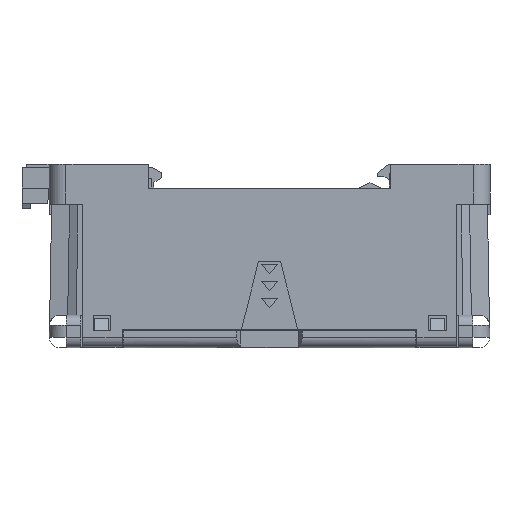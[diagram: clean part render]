
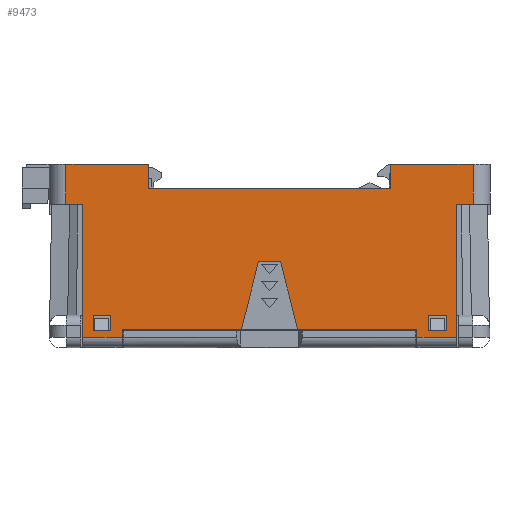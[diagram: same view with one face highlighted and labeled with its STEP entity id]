
A CAD part, left-side view. The second image highlights one B-rep face of the part: STEP entity #9473.
In plain terms, the highlighted planar face has unit normal (-1, 0, 0).
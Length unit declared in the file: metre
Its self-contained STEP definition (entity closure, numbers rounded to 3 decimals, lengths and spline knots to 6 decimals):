
#195=CARTESIAN_POINT('',(-0.019,-0.0276,-0.0197));
#196=VERTEX_POINT('',#195);
#199=CARTESIAN_POINT('',(-0.019,-0.0326,-0.0197));
#200=DIRECTION('',(0.,1.,0.));
#201=VECTOR('',#200,1.);
#202=LINE('',#199,#201);
#203=CARTESIAN_POINT('',(-0.019,-0.0218,-0.0197));
#204=VERTEX_POINT('',#203);
#205=EDGE_CURVE('',#196,#204,#202,.T.);
#1199=CARTESIAN_POINT('',(-0.019,-0.0301,0.));
#1200=VERTEX_POINT('',#1199);
#1203=CARTESIAN_POINT('',(-0.019,-0.0326,0.));
#1204=DIRECTION('',(0.,1.,0.));
#1205=VECTOR('',#1204,1.);
#1206=LINE('',#1203,#1205);
#1207=CARTESIAN_POINT('',(-0.019,-0.0276,0.));
#1208=VERTEX_POINT('',#1207);
#1209=EDGE_CURVE('',#1200,#1208,#1206,.T.);
#3579=CARTESIAN_POINT('',(-0.019,0.0301,0.0024));
#3580=DIRECTION('',(0.,0.,-1.));
#3581=VECTOR('',#3580,1.);
#3582=LINE('',#3579,#3581);
#3583=CARTESIAN_POINT('',(-0.019,0.0301,0.0059));
#3584=VERTEX_POINT('',#3583);
#3585=CARTESIAN_POINT('',(-0.019,0.0301,0.));
#3586=VERTEX_POINT('',#3585);
#3587=EDGE_CURVE('',#3584,#3586,#3582,.T.);
#6246=CARTESIAN_POINT('',(-0.019,-0.0301,0.0059));
#6247=VERTEX_POINT('',#6246);
#6250=CARTESIAN_POINT('',(-0.019,-0.0301,0.0024));
#6251=DIRECTION('',(0.,0.,-1.));
#6252=VECTOR('',#6251,1.);
#6253=LINE('',#6250,#6252);
#6254=EDGE_CURVE('',#6247,#1200,#6253,.T.);
#6566=CARTESIAN_POINT('',(-0.019,-0.0179,0.0059));
#6567=VERTEX_POINT('',#6566);
#6570=CARTESIAN_POINT('',(-0.019,-0.0179,0.0059));
#6571=DIRECTION('',(0.,-1.,0.));
#6572=VECTOR('',#6571,1.);
#6573=LINE('',#6570,#6572);
#6574=EDGE_CURVE('',#6567,#6247,#6573,.T.);
#6834=CARTESIAN_POINT('',(-0.019,-0.0179,0.0024));
#6835=VERTEX_POINT('',#6834);
#6838=CARTESIAN_POINT('',(-0.019,-0.0179,0.0059));
#6839=DIRECTION('',(0.,0.,-1.));
#6840=VECTOR('',#6839,1.);
#6841=LINE('',#6838,#6840);
#6842=EDGE_CURVE('',#6567,#6835,#6841,.T.);
#7439=CARTESIAN_POINT('',(-0.019,0.0179,0.0024));
#7440=VERTEX_POINT('',#7439);
#7443=CARTESIAN_POINT('',(-0.019,-0.0326,0.0024));
#7444=DIRECTION('',(0.,1.,0.));
#7445=VECTOR('',#7444,1.);
#7446=LINE('',#7443,#7445);
#7447=EDGE_CURVE('',#6835,#7440,#7446,.T.);
#7822=CARTESIAN_POINT('',(-0.019,0.0301,0.0059));
#7823=DIRECTION('',(0.,-1.,0.));
#7824=VECTOR('',#7823,1.);
#7825=LINE('',#7822,#7824);
#7826=CARTESIAN_POINT('',(-0.019,0.0179,0.0059));
#7827=VERTEX_POINT('',#7826);
#7828=EDGE_CURVE('',#3584,#7827,#7825,.T.);
#7961=CARTESIAN_POINT('',(-0.019,0.0179,0.0059));
#7962=DIRECTION('',(0.,0.,-1.));
#7963=VECTOR('',#7962,1.);
#7964=LINE('',#7961,#7963);
#7965=EDGE_CURVE('',#7827,#7440,#7964,.T.);
#8298=CARTESIAN_POINT('',(-0.019,0.0276,0.));
#8299=VERTEX_POINT('',#8298);
#8302=EDGE_CURVE('',#8299,#3586,#1206,.T.);
#8500=CARTESIAN_POINT('',(-0.019,0.0276,-0.0197));
#8501=VERTEX_POINT('',#8500);
#8504=CARTESIAN_POINT('',(-0.019,0.0276,-0.0211));
#8505=DIRECTION('',(0.,0.,1.));
#8506=VECTOR('',#8505,1.);
#8507=LINE('',#8504,#8506);
#8508=EDGE_CURVE('',#8501,#8299,#8507,.T.);
#8538=CARTESIAN_POINT('',(-0.019,0.0218,-0.0197));
#8539=VERTEX_POINT('',#8538);
#8542=CARTESIAN_POINT('',(-0.019,-0.0326,-0.0197));
#8543=DIRECTION('',(0.,1.,0.));
#8544=VECTOR('',#8543,1.);
#8545=LINE('',#8542,#8544);
#8546=EDGE_CURVE('',#8539,#8501,#8545,.T.);
#8561=CARTESIAN_POINT('',(-0.019,0.0218,-0.0211));
#8562=DIRECTION('',(0.,0.,1.));
#8563=VECTOR('',#8562,1.);
#8564=LINE('',#8561,#8563);
#8565=CARTESIAN_POINT('',(-0.019,0.0218,-0.0185));
#8566=VERTEX_POINT('',#8565);
#8567=EDGE_CURVE('',#8539,#8566,#8564,.T.);
#8952=CARTESIAN_POINT('',(-0.019,-0.00165,-0.0085));
#8953=DIRECTION('',(0.,-0.243,-0.97));
#8954=VECTOR('',#8953,1.);
#8955=LINE('',#8952,#8954);
#8956=CARTESIAN_POINT('',(-0.019,-0.00165,-0.0085));
#8957=VERTEX_POINT('',#8956);
#8958=CARTESIAN_POINT('',(-0.019,-0.00415,-0.0185));
#8959=VERTEX_POINT('',#8958);
#8960=EDGE_CURVE('',#8957,#8959,#8955,.T.);
#9054=CARTESIAN_POINT('',(-0.019,0.00415,-0.0185));
#9055=VERTEX_POINT('',#9054);
#9058=CARTESIAN_POINT('',(-0.019,0.0218,-0.0185));
#9059=DIRECTION('',(0.,-1.,0.));
#9060=VECTOR('',#9059,1.);
#9061=LINE('',#9058,#9060);
#9062=EDGE_CURVE('',#8566,#9055,#9061,.T.);
#9077=CARTESIAN_POINT('',(-0.019,-0.0218,-0.0185));
#9078=VERTEX_POINT('',#9077);
#9081=EDGE_CURVE('',#8959,#9078,#9061,.T.);
#9100=CARTESIAN_POINT('',(-0.019,0.00415,-0.0185));
#9101=DIRECTION('',(0.,-0.243,0.97));
#9102=VECTOR('',#9101,1.);
#9103=LINE('',#9100,#9102);
#9104=CARTESIAN_POINT('',(-0.019,0.00165,-0.0085));
#9105=VERTEX_POINT('',#9104);
#9106=EDGE_CURVE('',#9055,#9105,#9103,.T.);
#9132=CARTESIAN_POINT('',(-0.019,0.00165,-0.0085));
#9133=DIRECTION('',(0.,-1.,0.));
#9134=VECTOR('',#9133,1.);
#9135=LINE('',#9132,#9134);
#9136=EDGE_CURVE('',#9105,#8957,#9135,.T.);
#9156=CARTESIAN_POINT('',(-0.019,0.0235,-0.0187));
#9157=VERTEX_POINT('',#9156);
#9162=CARTESIAN_POINT('',(-0.019,0.0235,-0.0164));
#9163=DIRECTION('',(0.,0.,-1.));
#9164=VECTOR('',#9163,1.);
#9165=LINE('',#9162,#9164);
#9166=CARTESIAN_POINT('',(-0.019,0.0235,-0.0164));
#9167=VERTEX_POINT('',#9166);
#9168=EDGE_CURVE('',#9167,#9157,#9165,.T.);
#9196=CARTESIAN_POINT('',(-0.019,0.0261,-0.0164));
#9197=DIRECTION('',(0.,-1.,0.));
#9198=VECTOR('',#9197,1.);
#9199=LINE('',#9196,#9198);
#9200=CARTESIAN_POINT('',(-0.019,0.0261,-0.0164));
#9201=VERTEX_POINT('',#9200);
#9202=EDGE_CURVE('',#9201,#9167,#9199,.T.);
#9230=CARTESIAN_POINT('',(-0.019,0.0261,-0.0187));
#9231=DIRECTION('',(0.,0.,1.));
#9232=VECTOR('',#9231,1.);
#9233=LINE('',#9230,#9232);
#9234=CARTESIAN_POINT('',(-0.019,0.0261,-0.0187));
#9235=VERTEX_POINT('',#9234);
#9236=EDGE_CURVE('',#9235,#9201,#9233,.T.);
#9264=CARTESIAN_POINT('',(-0.019,0.0235,-0.0187));
#9265=DIRECTION('',(0.,1.,0.));
#9266=VECTOR('',#9265,1.);
#9267=LINE('',#9264,#9266);
#9268=EDGE_CURVE('',#9157,#9235,#9267,.T.);
#9292=CARTESIAN_POINT('',(-0.019,-0.0261,-0.0187));
#9293=VERTEX_POINT('',#9292);
#9298=CARTESIAN_POINT('',(-0.019,-0.0261,-0.0164));
#9299=DIRECTION('',(0.,0.,-1.));
#9300=VECTOR('',#9299,1.);
#9301=LINE('',#9298,#9300);
#9302=CARTESIAN_POINT('',(-0.019,-0.0261,-0.0164));
#9303=VERTEX_POINT('',#9302);
#9304=EDGE_CURVE('',#9303,#9293,#9301,.T.);
#9332=CARTESIAN_POINT('',(-0.019,-0.0235,-0.0164));
#9333=DIRECTION('',(0.,-1.,0.));
#9334=VECTOR('',#9333,1.);
#9335=LINE('',#9332,#9334);
#9336=CARTESIAN_POINT('',(-0.019,-0.0235,-0.0164));
#9337=VERTEX_POINT('',#9336);
#9338=EDGE_CURVE('',#9337,#9303,#9335,.T.);
#9366=CARTESIAN_POINT('',(-0.019,-0.0235,-0.0187));
#9367=DIRECTION('',(0.,0.,1.));
#9368=VECTOR('',#9367,1.);
#9369=LINE('',#9366,#9368);
#9370=CARTESIAN_POINT('',(-0.019,-0.0235,-0.0187));
#9371=VERTEX_POINT('',#9370);
#9372=EDGE_CURVE('',#9371,#9337,#9369,.T.);
#9400=CARTESIAN_POINT('',(-0.019,-0.0261,-0.0187));
#9401=DIRECTION('',(0.,1.,0.));
#9402=VECTOR('',#9401,1.);
#9403=LINE('',#9400,#9402);
#9404=EDGE_CURVE('',#9293,#9371,#9403,.T.);
#9424=CARTESIAN_POINT('',(-0.019,-0.0326,0.0024));
#9425=DIRECTION('',(-1.,0.,0.));
#9426=DIRECTION('',(0.,-1.,0.));
#9427=AXIS2_PLACEMENT_3D('',#9424,#9425,#9426);
#9428=PLANE('',#9427);
#9429=ORIENTED_EDGE('',*,*,#9404,.T.);
#9430=ORIENTED_EDGE('',*,*,#9372,.T.);
#9431=ORIENTED_EDGE('',*,*,#9338,.T.);
#9432=ORIENTED_EDGE('',*,*,#9304,.T.);
#9433=EDGE_LOOP('',(#9429,#9430,#9431,#9432));
#9434=FACE_BOUND('',#9433,.T.);
#9435=ORIENTED_EDGE('',*,*,#9268,.T.);
#9436=ORIENTED_EDGE('',*,*,#9236,.T.);
#9437=ORIENTED_EDGE('',*,*,#9202,.T.);
#9438=ORIENTED_EDGE('',*,*,#9168,.T.);
#9439=EDGE_LOOP('',(#9435,#9436,#9437,#9438));
#9440=FACE_BOUND('',#9439,.T.);
#9441=ORIENTED_EDGE('',*,*,#9136,.T.);
#9442=ORIENTED_EDGE('',*,*,#8960,.T.);
#9443=ORIENTED_EDGE('',*,*,#9081,.T.);
#9444=CARTESIAN_POINT('',(-0.019,-0.0218,-0.0185));
#9445=DIRECTION('',(0.,0.,-1.));
#9446=VECTOR('',#9445,1.);
#9447=LINE('',#9444,#9446);
#9448=EDGE_CURVE('',#9078,#204,#9447,.T.);
#9449=ORIENTED_EDGE('',*,*,#9448,.T.);
#9450=ORIENTED_EDGE('',*,*,#205,.F.);
#9451=CARTESIAN_POINT('',(-0.019,-0.0276,-0.0211));
#9452=DIRECTION('',(0.,0.,1.));
#9453=VECTOR('',#9452,1.);
#9454=LINE('',#9451,#9453);
#9455=EDGE_CURVE('',#196,#1208,#9454,.T.);
#9456=ORIENTED_EDGE('',*,*,#9455,.T.);
#9457=ORIENTED_EDGE('',*,*,#1209,.F.);
#9458=ORIENTED_EDGE('',*,*,#6254,.F.);
#9459=ORIENTED_EDGE('',*,*,#6574,.F.);
#9460=ORIENTED_EDGE('',*,*,#6842,.T.);
#9461=ORIENTED_EDGE('',*,*,#7447,.T.);
#9462=ORIENTED_EDGE('',*,*,#7965,.F.);
#9463=ORIENTED_EDGE('',*,*,#7828,.F.);
#9464=ORIENTED_EDGE('',*,*,#3587,.T.);
#9465=ORIENTED_EDGE('',*,*,#8302,.F.);
#9466=ORIENTED_EDGE('',*,*,#8508,.F.);
#9467=ORIENTED_EDGE('',*,*,#8546,.F.);
#9468=ORIENTED_EDGE('',*,*,#8567,.T.);
#9469=ORIENTED_EDGE('',*,*,#9062,.T.);
#9470=ORIENTED_EDGE('',*,*,#9106,.T.);
#9471=EDGE_LOOP('',(#9441,#9442,#9443,#9449,#9450,#9456,#9457,#9458,#9459,#9460,#9461,#9462,#9463,#9464,#9465,#9466,#9467,#9468,#9469,#9470));
#9472=FACE_BOUND('',#9471,.T.);
#9473=ADVANCED_FACE('',(#9434,#9440,#9472),#9428,.T.);
